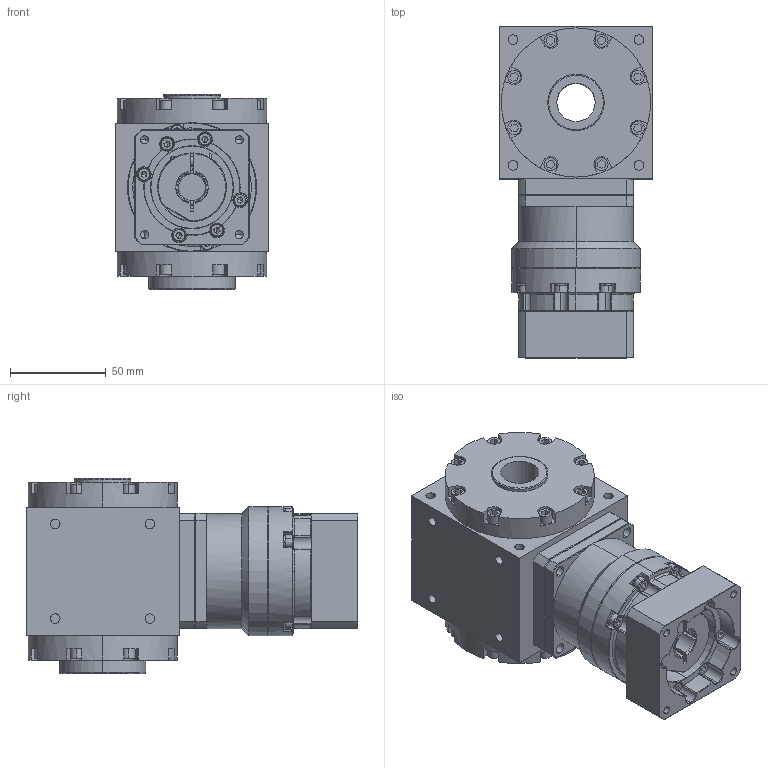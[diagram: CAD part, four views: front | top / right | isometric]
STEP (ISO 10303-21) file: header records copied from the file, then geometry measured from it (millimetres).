
FILE_DESCRIPTION (( 'STEP AP203' ), '1' );
FILE_NAME ('AAW080AS-L1-RF 14-50-70-M5.STEP', '2024-12-24T00:48:23', ( '' ), ( '' ), 'SwSTEP 2.0', 'SolidWorks 2021', '' );
FILE_SCHEMA (( 'CONFIG_CONTROL_DESIGN' ));
Length unit declared in the file: millimetre
Products named in the file (3): VRB-060-L1-S2-P1 14-50-70-M5; AAW080AS-L1-RF 14-50-70-M5; AAW080AS-RF
Assembly tree (2 placements, depth 2):
  AAW080AS-L1-RF 14-50-70-M5
    AAW080AS-RF
    VRB-060-L1-S2-P1 14-50-70-M5
Bounding box: 80 x 173.5 x 102 mm (x, y, z)
Volume: 771832.5 mm3; surface area: 119393.2 mm2
Topology: 32 solids, 32 shells, 1286 faces, 3139 edges, 1979 vertices
Faces by surface type: plane 594, cylinder 438, cone 188, torus 50, bspline 16
Entity records: 38634 total; most frequent: CARTESIAN_POINT 7714, DIRECTION 6712, ORIENTED_EDGE 6182, EDGE_CURVE 3091, AXIS2_PLACEMENT_3D 2578, VERTEX_POINT 1979, VECTOR 1556, LINE 1556
